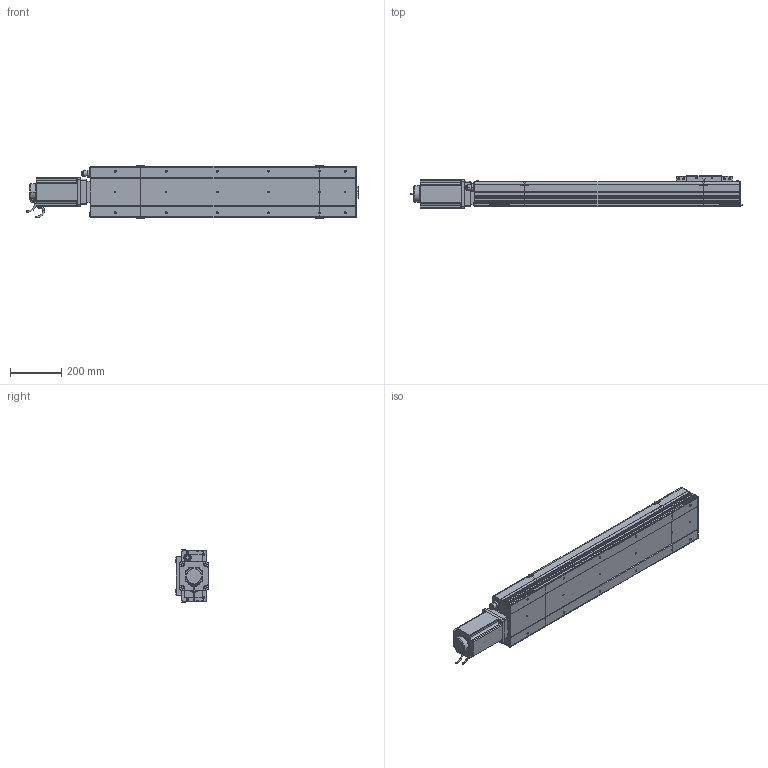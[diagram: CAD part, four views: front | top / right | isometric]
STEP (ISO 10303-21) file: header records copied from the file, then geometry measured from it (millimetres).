
FILE_DESCRIPTION (( 'STEP AP214' ), '1' );
FILE_NAME ('D20 CSH MD S700.STEP', '2010-06-30T08:07:13', ( 'Conseil Régional Haute-Normandie' ), ( 'Conseil Régional Haute-Normandie' ), 'SwSTEP 2.0', 'SolidWorks 2010', '' );
FILE_SCHEMA (( 'AUTOMOTIVE_DESIGN' ));
Length unit declared in the file: millimetre
Products named in the file (28): Plaque De Serrage Head D20_Default; corps 110BLDC170A-630x; Moteur motionking 110BLDC170A-640x; vis M8 L15_Default; avant 110BLDC170A-630x; Plaque racord D20_Default; codeur 110BLDC170A-630x; Glissiere_Default; Support Chariot D20_Default; Chariot D20_Default; vis M5 L15_Default; clavette; Conecteur_Default; Conecteur2_Default; D20 CSH MD S700; Couvercle_Default; Corp Tail D20+100_Default; Tail D20+100_Default; Corp D20 S700_Default; Plaque De Serrage D20_Default; Plaque de Bout Tail D20_Default; Head D20 MD_Default; Couvercle S700_Default; Corp S700_Default; Plaque de Bout Head D20_Default; Couvercle Head_Default; Corp Head D20_Default
Assembly tree (53 placements, depth 4):
  D20 CSH MD S700
    Tail D20+100_Default
      vis M5 L15_Default  x6
      Corp Tail D20+100_Default
      Couvercle_Default
      Plaque de Bout Tail D20_Default
      Plaque De Serrage D20_Default
    Corp D20 S700_Default
      Couvercle S700_Default
      Corp S700_Default
    Head D20 MD_Default
      Moteur motionking 110BLDC170A-640x
        avant 110BLDC170A-630x
        codeur 110BLDC170A-630x
        corps 110BLDC170A-630x
        clavette
        Conecteur_Default
        Conecteur2_Default
      vis M8 L15_Default  x4
      vis M5 L15_Default  x10
      Couvercle Head_Default
      Corp Head D20_Default
      Plaque racord D20_Default
      Plaque de Bout Head D20_Default
      Plaque De Serrage Head D20_Default
    Chariot D20_Default
      vis M5 L15_Default  x8
      Chariot D20_Default
      Support Chariot D20_Default
      Glissiere_Default
Bounding box: 1299 x 125.5 x 206 mm (x, y, z)
Volume: 9599788.9 mm3; surface area: 1690328.2 mm2
Topology: 90 solids, 90 shells, 3406 faces, 8591 edges, 5613 vertices
Faces by surface type: plane 1941, bspline 758, cylinder 569, torus 79, cone 59
Entity records: 152787 total; most frequent: CARTESIAN_POINT 79331, ORIENTED_EDGE 14578, DIRECTION 10859, EDGE_CURVE 7289, VERTEX_POINT 4833, LINE 4793, VECTOR 4793, EDGE_LOOP 3084
